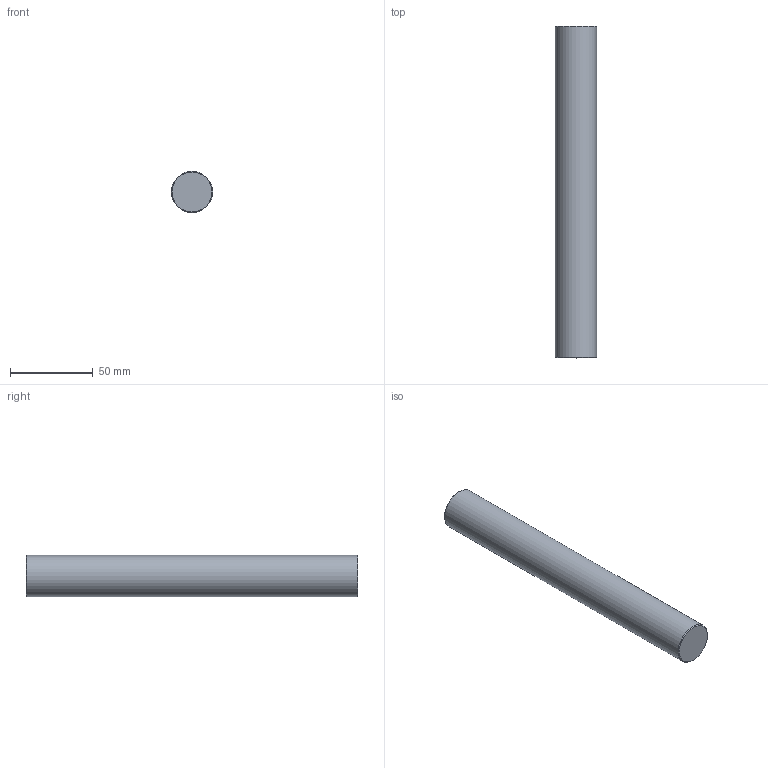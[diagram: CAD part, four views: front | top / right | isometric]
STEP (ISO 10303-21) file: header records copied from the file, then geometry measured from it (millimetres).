
FILE_DESCRIPTION(/* description */ (''),/* implementation_level */ '2;1');
FILE_NAME(/* name */ 'BM02-25D-200L.step',/* time_stamp */ '2023-10-24T13:57:36+09:00',/* author */ (''),/* organization */ (''),/* preprocessor_version */ 'ST-DEVELOPER v20',/* originating_system */ 'Autodesk Translation Framework v12.14.0.127',/* authorisation */ '');
FILE_SCHEMA (('AUTOMOTIVE_DESIGN { 1 0 10303 214 3 1 1 }'));
Length unit declared in the file: millimetre
Products named in the file (1): BM02-25D-200L
Bounding box: 25 x 200 x 25 mm (x, y, z)
Volume: 97250.3 mm3; surface area: 17054.3 mm2
Topology: 1 solids, 1 shells, 7 faces, 12 edges, 7 vertices
Faces by surface type: cone 3, cylinder 2, plane 2
Full cylindrical faces by diameter (mm): 8.526 x1, 25 x1
Entity records: 203 total; most frequent: DIRECTION 33, CARTESIAN_POINT 26, ORIENTED_EDGE 22, AXIS2_PLACEMENT_3D 14, EDGE_CURVE 11, EDGE_LOOP 8, FACE_OUTER_BOUND 7, VERTEX_POINT 7
